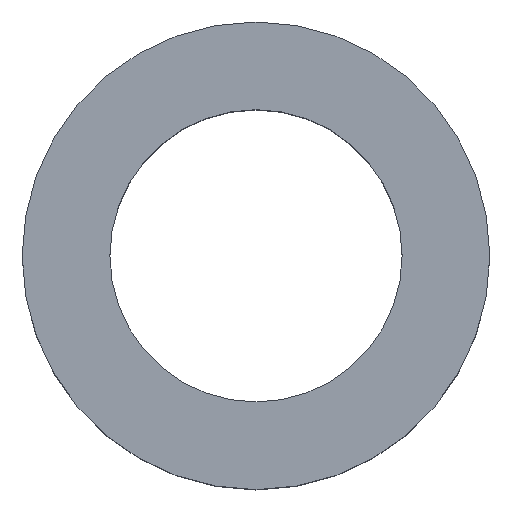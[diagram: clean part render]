
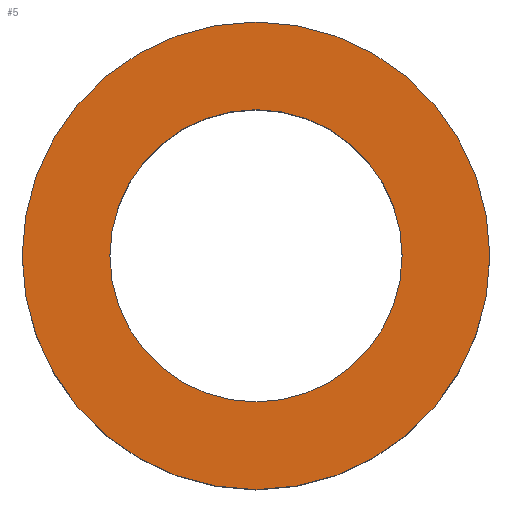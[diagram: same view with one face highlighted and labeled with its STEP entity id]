
A CAD part, top view. The second image highlights one B-rep face of the part: STEP entity #5.
In plain terms, the highlighted planar face has unit normal (0, 0, 1).
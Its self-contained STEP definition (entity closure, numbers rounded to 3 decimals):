
#5 = ADVANCED_FACE ( 'NONE', ( #38, #34 ), #176, .T. ) ;
#7 = AXIS2_PLACEMENT_3D ( 'NONE', #140, #125, #138 ) ;
#13 = VERTEX_POINT ( 'NONE', #124 ) ;
#23 = CIRCLE ( 'NONE', #68, 12.5 ) ;
#32 = DIRECTION ( 'NONE',  ( 0., 0., 1. ) ) ;
#34 = FACE_BOUND ( 'NONE', #105, .T. ) ;
#36 = ORIENTED_EDGE ( 'NONE', *, *, #55, .T. ) ;
#38 = FACE_OUTER_BOUND ( 'NONE', #164, .T. ) ;
#39 = AXIS2_PLACEMENT_3D ( 'NONE', #59, #32, #158 ) ;
#40 = ORIENTED_EDGE ( 'NONE', *, *, #72, .T. ) ;
#47 = EDGE_CURVE ( 'NONE', #154, #13, #23, .T. ) ;
#55 = EDGE_CURVE ( 'NONE', #126, #201, #173, .T. ) ;
#59 = CARTESIAN_POINT ( 'NONE',  ( 0., 0., 18. ) ) ;
#68 = AXIS2_PLACEMENT_3D ( 'NONE', #118, #122, #141 ) ;
#72 = EDGE_CURVE ( 'NONE', #201, #126, #208, .T. ) ;
#80 = DIRECTION ( 'NONE',  ( 1., 0., 0. ) ) ;
#85 = AXIS2_PLACEMENT_3D ( 'NONE', #186, #145, #80 ) ;
#94 = CARTESIAN_POINT ( 'NONE',  ( -20., 0., 18. ) ) ;
#105 = EDGE_LOOP ( 'NONE', ( #212, #200 ) ) ;
#118 = CARTESIAN_POINT ( 'NONE',  ( 0., 0., 18. ) ) ;
#122 = DIRECTION ( 'NONE',  ( 0., 0., 1. ) ) ;
#124 = CARTESIAN_POINT ( 'NONE',  ( 12.5, 0., 18. ) ) ;
#125 = DIRECTION ( 'NONE',  ( 0., 0., 1. ) ) ;
#126 = VERTEX_POINT ( 'NONE', #129 ) ;
#129 = CARTESIAN_POINT ( 'NONE',  ( 20., 0., 18. ) ) ;
#130 = DIRECTION ( 'NONE',  ( 1., 0., 0. ) ) ;
#138 = DIRECTION ( 'NONE',  ( 1., 0., 0. ) ) ;
#139 = CARTESIAN_POINT ( 'NONE',  ( -12.5, 0., 18. ) ) ;
#140 = CARTESIAN_POINT ( 'NONE',  ( 0., 0., 18. ) ) ;
#141 = DIRECTION ( 'NONE',  ( 1., 0., 0. ) ) ;
#143 = EDGE_CURVE ( 'NONE', #13, #154, #178, .T. ) ;
#145 = DIRECTION ( 'NONE',  ( 0., 0., 1. ) ) ;
#154 = VERTEX_POINT ( 'NONE', #139 ) ;
#155 = DIRECTION ( 'NONE',  ( 0., 0., 1. ) ) ;
#158 = DIRECTION ( 'NONE',  ( 1., 0., 0. ) ) ;
#164 = EDGE_LOOP ( 'NONE', ( #40, #36 ) ) ;
#165 = CARTESIAN_POINT ( 'NONE',  ( 0., 0., 18. ) ) ;
#173 = CIRCLE ( 'NONE', #7, 20. ) ;
#176 = PLANE ( 'NONE',  #39 ) ;
#178 = CIRCLE ( 'NONE', #85, 12.5 ) ;
#186 = CARTESIAN_POINT ( 'NONE',  ( 0., 0., 18. ) ) ;
#200 = ORIENTED_EDGE ( 'NONE', *, *, #143, .F. ) ;
#201 = VERTEX_POINT ( 'NONE', #94 ) ;
#206 = AXIS2_PLACEMENT_3D ( 'NONE', #165, #155, #130 ) ;
#208 = CIRCLE ( 'NONE', #206, 20. ) ;
#212 = ORIENTED_EDGE ( 'NONE', *, *, #47, .F. ) ;
